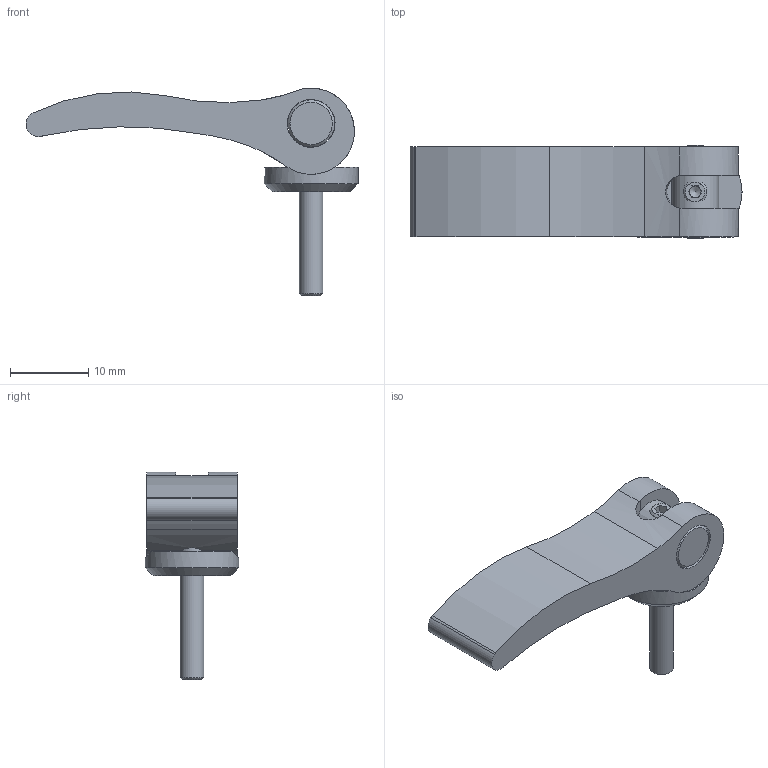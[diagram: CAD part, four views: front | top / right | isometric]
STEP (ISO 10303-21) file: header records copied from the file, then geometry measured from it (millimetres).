
FILE_DESCRIPTION(('STEP AP203'), '1');
FILE_NAME('À00360.11420310 _ Ýêñöåíòðèê 42 ìì', '', ('UNSPECIFIED'), ('UNSPECIFIED'), 'C3D Converter', 'C3D Toolkit', '');
FILE_SCHEMA(('CONFIG_CONTROL_DESIGN'));
Length unit declared in the file: millimetre
Products named in the file (5): А00360.42.03; А00360.42.02; А00360.42.01
Assembly tree (4 placements, depth 2):
  (unnamed)
    А00360.42.03
    А00360.42.02
    А00360.42.01
    (unnamed)
Bounding box: 42.36 x 11.94 x 26.5 mm (x, y, z)
Volume: 2862.5 mm3; surface area: 2535.7 mm2
Topology: 4 solids, 4 shells, 49 faces, 121 edges, 78 vertices
Faces by surface type: plane 23, cylinder 20, cone 6
Full cylindrical faces by diameter (mm): 2.459 x1, 3 x1, 4.5 x1, 6 x1, 6.1 x2, 11.94 x1
Entity records: 2388 total; most frequent: CARTESIAN_POINT 947, DIRECTION 250, ORIENTED_EDGE 214, EDGE_CURVE 107, AXIS2_PLACEMENT_3D 104, VERTEX_POINT 77, EDGE_LOOP 68, FACE_BOUND 55
